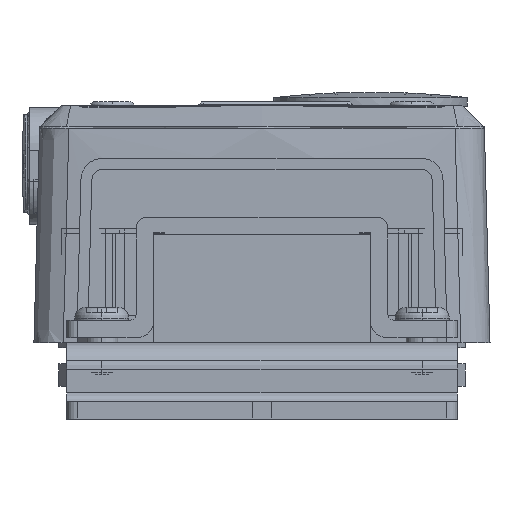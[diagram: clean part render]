
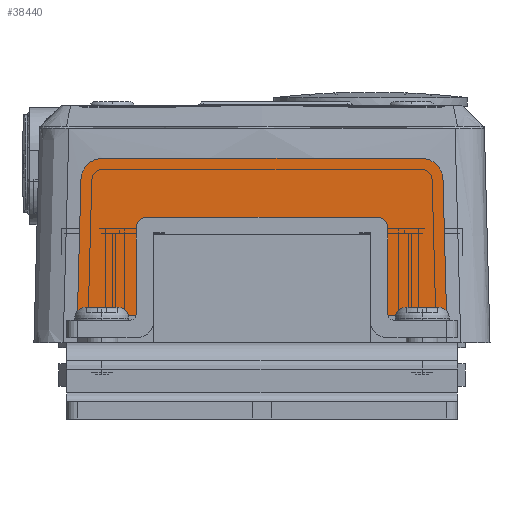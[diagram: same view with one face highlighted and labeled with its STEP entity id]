
A CAD part, left-side view. The second image highlights one B-rep face of the part: STEP entity #38440.
In plain terms, the highlighted planar face has unit normal (-1, 0, 0) as drawn and (0, 1, 0) by its records, which use the part's own axes.
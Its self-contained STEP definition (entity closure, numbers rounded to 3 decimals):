
#37330=CARTESIAN_POINT('',(523.201,7.742,27.08));
#37340=DIRECTION('',(1.,0.,0.));
#37350=VECTOR('',#37340,1.);
#37360=LINE('',#37330,#37350);
#37370=CARTESIAN_POINT('',(525.529,7.742,27.08));
#37380=VERTEX_POINT('',#37370);
#37390=CARTESIAN_POINT('',(554.873,7.742,27.08));
#37400=VERTEX_POINT('',#37390);
#37410=EDGE_CURVE('',#37380,#37400,#37360,.T.);
#37680=CARTESIAN_POINT('',(557.201,7.742,27.08));
#37690=DIRECTION('',(-0.,1.,0.));
#37700=DIRECTION('',(1.,0.,0.));
#37710=AXIS2_PLACEMENT_3D('',#37680,#37690,#37700);
#37720=PLANE('',#37710);
#37730=CARTESIAN_POINT('',(525.529,7.742,25.08));
#37740=DIRECTION('',(0.,1.,0.));
#37750=DIRECTION('',(1.,0.,0.));
#37760=AXIS2_PLACEMENT_3D('',#37730,#37740,#37750);
#37770=CIRCLE('',#37760,2.);
#37780=CARTESIAN_POINT('',(523.53,7.742,
25.132));
#37790=VERTEX_POINT('',#37780);
#37800=EDGE_CURVE('',#37790,#37380,#37770,.T.);
#37810=ORIENTED_EDGE('',*,*,#37800,.T.);
#37820=CARTESIAN_POINT('',(523.136,7.742,10.08));
#37830=DIRECTION('',(0.026,0.,1.));
#37840=VECTOR('',#37830,1.);
#37850=LINE('',#37820,#37840);
#37860=CARTESIAN_POINT('',(523.201,7.742,12.58));
#37870=VERTEX_POINT('',#37860);
#37880=EDGE_CURVE('',#37870,#37790,#37850,.T.);
#37890=ORIENTED_EDGE('',*,*,#37880,.T.);
#37900=CARTESIAN_POINT('',(255.507,7.742,12.58));
#37910=DIRECTION('',(1.,0.,0.));
#37920=VECTOR('',#37910,1.);
#37930=LINE('',#37900,#37920);
#37940=CARTESIAN_POINT('',(529.701,7.742,12.58));
#37950=VERTEX_POINT('',#37940);
#37960=EDGE_CURVE('',#37870,#37950,#37930,.T.);
#37970=ORIENTED_EDGE('',*,*,#37960,.F.);
#37980=CARTESIAN_POINT('',(529.701,7.742,10.08));
#37990=DIRECTION('',(0.,0.,1.));
#38000=VECTOR('',#37990,1.);
#38010=LINE('',#37980,#38000);
#38020=CARTESIAN_POINT('',(529.701,7.742,20.58));
#38030=VERTEX_POINT('',#38020);
#38040=EDGE_CURVE('',#37950,#38030,#38010,.T.);
#38050=ORIENTED_EDGE('',*,*,#38040,.F.);
#38060=CARTESIAN_POINT('',(255.507,7.742,20.58));
#38070=DIRECTION('',(1.,0.,0.));
#38080=VECTOR('',#38070,1.);
#38090=LINE('',#38060,#38080);
#38100=CARTESIAN_POINT('',(550.701,7.742,20.58));
#38110=VERTEX_POINT('',#38100);
#38120=EDGE_CURVE('',#38030,#38110,#38090,.T.);
#38130=ORIENTED_EDGE('',*,*,#38120,.F.);
#38140=CARTESIAN_POINT('',(550.701,7.742,10.08));
#38150=DIRECTION('',(0.,0.,-1.));
#38160=VECTOR('',#38150,1.);
#38170=LINE('',#38140,#38160);
#38180=CARTESIAN_POINT('',(550.701,7.742,12.58));
#38190=VERTEX_POINT('',#38180);
#38200=EDGE_CURVE('',#38110,#38190,#38170,.T.);
#38210=ORIENTED_EDGE('',*,*,#38200,.F.);
#38220=CARTESIAN_POINT('',(557.201,7.742,12.58));
#38230=VERTEX_POINT('',#38220);
#38240=EDGE_CURVE('',#38190,#38230,#37930,.T.);
#38250=ORIENTED_EDGE('',*,*,#38240,.F.);
#38260=CARTESIAN_POINT('',(557.267,7.742,10.08));
#38270=DIRECTION('',(0.026,0.,-1.));
#38280=VECTOR('',#38270,1.);
#38290=LINE('',#38260,#38280);
#38300=CARTESIAN_POINT('',(556.872,7.742,
25.132));
#38310=VERTEX_POINT('',#38300);
#38320=EDGE_CURVE('',#38310,#38230,#38290,.T.);
#38330=ORIENTED_EDGE('',*,*,#38320,.T.);
#38340=CARTESIAN_POINT('',(554.873,7.742,25.08));
#38350=DIRECTION('',(0.,-1.,0.));
#38360=DIRECTION('',(-1.,0.,0.));
#38370=AXIS2_PLACEMENT_3D('',#38340,#38350,#38360);
#38380=CIRCLE('',#38370,2.);
#38390=EDGE_CURVE('',#38310,#37400,#38380,.T.);
#38400=ORIENTED_EDGE('',*,*,#38390,.F.);
#38410=ORIENTED_EDGE('',*,*,#37410,.T.);
#38420=EDGE_LOOP('',(#38410,#38400,#38330,#38250,#38210,#38130,#38050,
#37970,#37890,#37810));
#38430=FACE_OUTER_BOUND('',#38420,.T.);
#38440=ADVANCED_FACE('',(#38430),#37720,.T.);
